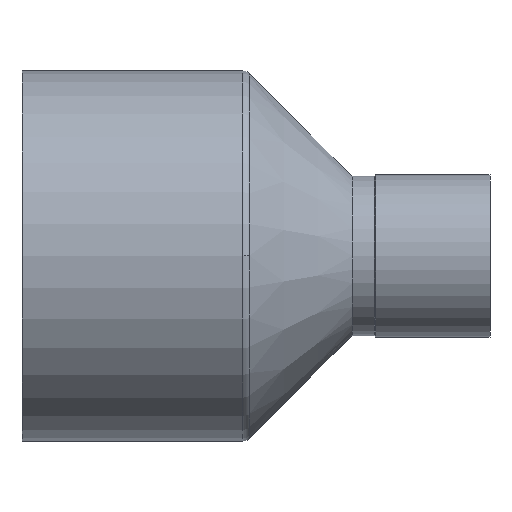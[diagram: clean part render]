
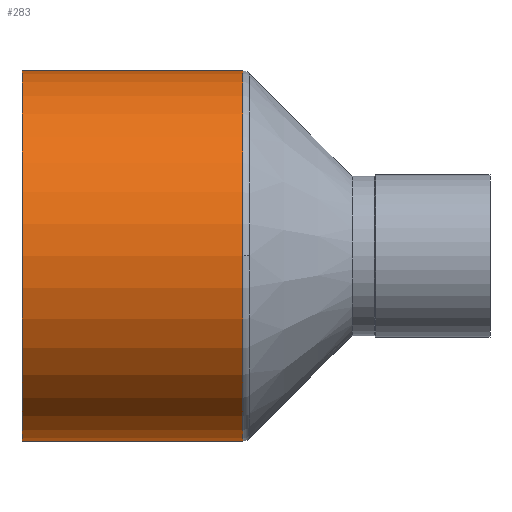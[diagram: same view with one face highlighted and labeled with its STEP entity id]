
A CAD part, top view. The second image highlights one B-rep face of the part: STEP entity #283.
In plain terms, the highlighted cylindrical face has radius 28.475 mm (diameter 56.95 mm), a partial arc.
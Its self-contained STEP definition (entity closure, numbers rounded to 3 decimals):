
#207=CARTESIAN_POINT('',(34.,28.475,0.0));
#208=VERTEX_POINT('',#207);
#216=CARTESIAN_POINT('',(34.,0.,28.475));
#217=VERTEX_POINT('',#216);
#218=CARTESIAN_POINT('',(34.,0.0,0.0));
#219=DIRECTION('',(1.0,0.0,0.0));
#220=DIRECTION('',(0.0,1.0,0.0));
#221=AXIS2_PLACEMENT_3D('',#218,#219,#220);
#222=CIRCLE('',#221,28.475);
#223=EDGE_CURVE('',#208,#217,#222,.T.);
#243=CARTESIAN_POINT('',(17.,0.0,0.0));
#244=DIRECTION('',(1.0,0.0,0.0));
#245=DIRECTION('',(0.0,1.0,0.0));
#246=AXIS2_PLACEMENT_3D('',#243,#244,#245);
#247=CYLINDRICAL_SURFACE('',#246,28.475);
#248=CARTESIAN_POINT('',(0.0,28.475,0.0));
#249=VERTEX_POINT('',#248);
#250=CARTESIAN_POINT('',(0.0,28.475,0.0));
#251=DIRECTION('',(1.0,0.0,0.0));
#252=VECTOR('',#251,34.);
#253=LINE('',#250,#252);
#254=EDGE_CURVE('',#249,#208,#253,.T.);
#255=ORIENTED_EDGE('',*,*,#254,.F.);
#256=CARTESIAN_POINT('',(0.0,-28.475,0.));
#257=VERTEX_POINT('',#256);
#258=CARTESIAN_POINT('',(0.0,0.0,0.0));
#259=DIRECTION('',(1.0,0.0,0.0));
#260=DIRECTION('',(0.0,1.0,0.0));
#261=AXIS2_PLACEMENT_3D('',#258,#259,#260);
#262=CIRCLE('',#261,28.475);
#263=EDGE_CURVE('',#249,#257,#262,.T.);
#264=ORIENTED_EDGE('',*,*,#263,.T.);
#265=CARTESIAN_POINT('',(34.,-28.475,0.));
#266=VERTEX_POINT('',#265);
#267=CARTESIAN_POINT('',(34.,-28.475,0.));
#268=DIRECTION('',(-1.0,0.0,0.0));
#269=VECTOR('',#268,34.);
#270=LINE('',#267,#269);
#271=EDGE_CURVE('',#266,#257,#270,.T.);
#272=ORIENTED_EDGE('',*,*,#271,.F.);
#273=CARTESIAN_POINT('',(34.,0.0,0.0));
#274=DIRECTION('',(1.0,0.0,0.0));
#275=DIRECTION('',(0.0,1.0,0.0));
#276=AXIS2_PLACEMENT_3D('',#273,#274,#275);
#277=CIRCLE('',#276,28.475);
#278=EDGE_CURVE('',#217,#266,#277,.T.);
#279=ORIENTED_EDGE('',*,*,#278,.F.);
#280=ORIENTED_EDGE('',*,*,#223,.F.);
#281=EDGE_LOOP('',(#255,#264,#272,#279,#280));
#282=FACE_OUTER_BOUND('',#281,.T.);
#283=ADVANCED_FACE('',(#282),#247,.T.);
